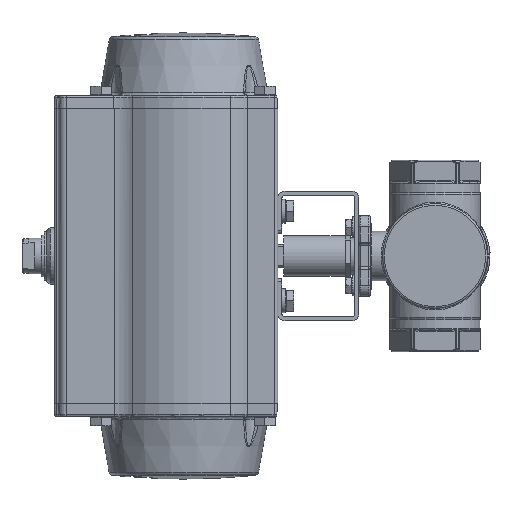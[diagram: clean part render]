
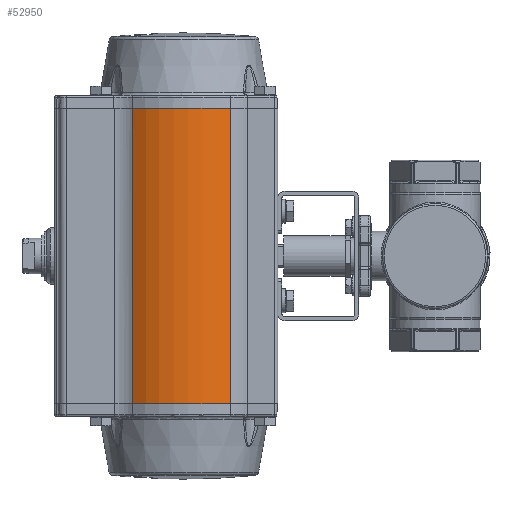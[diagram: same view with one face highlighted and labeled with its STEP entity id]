
A CAD part, left-side view. The second image highlights one B-rep face of the part: STEP entity #52950.
In plain terms, the highlighted cylindrical face has radius 55 mm (diameter 110 mm), a partial arc.
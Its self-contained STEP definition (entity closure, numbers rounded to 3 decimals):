
#49368=CARTESIAN_POINT('',(-337.189,196.548,20.791));
#49369=VERTEX_POINT('',#49368);
#49370=CARTESIAN_POINT('',(-339.023,136.393,20.791));
#49371=VERTEX_POINT('',#49370);
#49372=CARTESIAN_POINT('',(-292.089,165.068,20.791));
#49373=DIRECTION('',(0.0,0.0,1.0));
#49374=DIRECTION('',(1.0,0.0,0.0));
#49375=AXIS2_PLACEMENT_3D('',#49372,#49373,#49374);
#49376=CIRCLE('',#49375,55.);
#49377=EDGE_CURVE('',#49369,#49371,#49376,.T.);
#52906=CARTESIAN_POINT('',(-339.023,136.393,-161.209));
#52907=VERTEX_POINT('',#52906);
#52908=CARTESIAN_POINT('',(-339.023,136.393,20.791));
#52909=DIRECTION('',(0.0,0.0,-1.0));
#52910=VECTOR('',#52909,182.);
#52911=LINE('',#52908,#52910);
#52912=EDGE_CURVE('',#49371,#52907,#52911,.T.);
#52926=CARTESIAN_POINT('',(-292.089,165.068,-161.209));
#52927=DIRECTION('',(0.0,0.0,1.0));
#52928=DIRECTION('',(1.0,0.0,0.0));
#52929=AXIS2_PLACEMENT_3D('',#52926,#52927,#52928);
#52930=CYLINDRICAL_SURFACE('',#52929,55.);
#52931=ORIENTED_EDGE('',*,*,#49377,.F.);
#52932=CARTESIAN_POINT('',(-337.189,196.548,-161.209));
#52933=VERTEX_POINT('',#52932);
#52934=CARTESIAN_POINT('',(-337.189,196.548,-161.209));
#52935=DIRECTION('',(0.0,0.0,1.0));
#52936=VECTOR('',#52935,182.);
#52937=LINE('',#52934,#52936);
#52938=EDGE_CURVE('',#52933,#49369,#52937,.T.);
#52939=ORIENTED_EDGE('',*,*,#52938,.F.);
#52940=CARTESIAN_POINT('',(-292.089,165.068,-161.209));
#52941=DIRECTION('',(0.0,0.0,-1.0));
#52942=DIRECTION('',(1.0,0.0,0.0));
#52943=AXIS2_PLACEMENT_3D('',#52940,#52941,#52942);
#52944=CIRCLE('',#52943,55.);
#52945=EDGE_CURVE('',#52907,#52933,#52944,.T.);
#52946=ORIENTED_EDGE('',*,*,#52945,.F.);
#52947=ORIENTED_EDGE('',*,*,#52912,.F.);
#52948=EDGE_LOOP('',(#52931,#52939,#52946,#52947));
#52949=FACE_OUTER_BOUND('',#52948,.T.);
#52950=ADVANCED_FACE('',(#52949),#52930,.T.);
